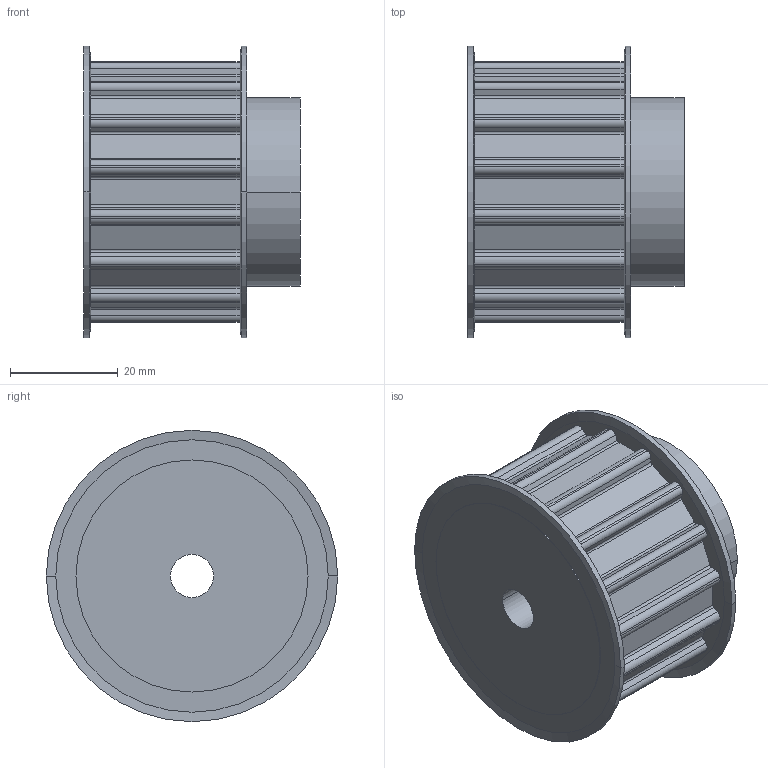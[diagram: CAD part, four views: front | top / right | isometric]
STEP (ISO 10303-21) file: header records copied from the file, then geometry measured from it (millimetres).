
FILE_DESCRIPTION( ( '' ), '1' );
FILE_NAME( 'C:/Users/Stangenbergd/Documents/CAD_Step/1/16831600.stp', '2021-10-19T09:45:16', ( '' ), ( '' ), ' ', ' ', ' ' );
FILE_SCHEMA( ( 'CONFIG_CONTROL_DESIGN' ) );
Length unit declared in the file: millimetre
Products named in the file (1): 1
Bounding box: 40.1 x 54 x 54 mm (x, y, z)
Volume: 58515.5 mm3; surface area: 13377.6 mm2
Topology: 1 solids, 1 shells, 155 faces, 436 edges, 288 vertices
Faces by surface type: cylinder 92, plane 55, cone 8
Entity records: 5126 total; most frequent: DIRECTION 940, CARTESIAN_POINT 880, ORIENTED_EDGE 872, EDGE_CURVE 436, AXIS2_PLACEMENT_3D 348, VERTEX_POINT 288, LINE 244, VECTOR 244
